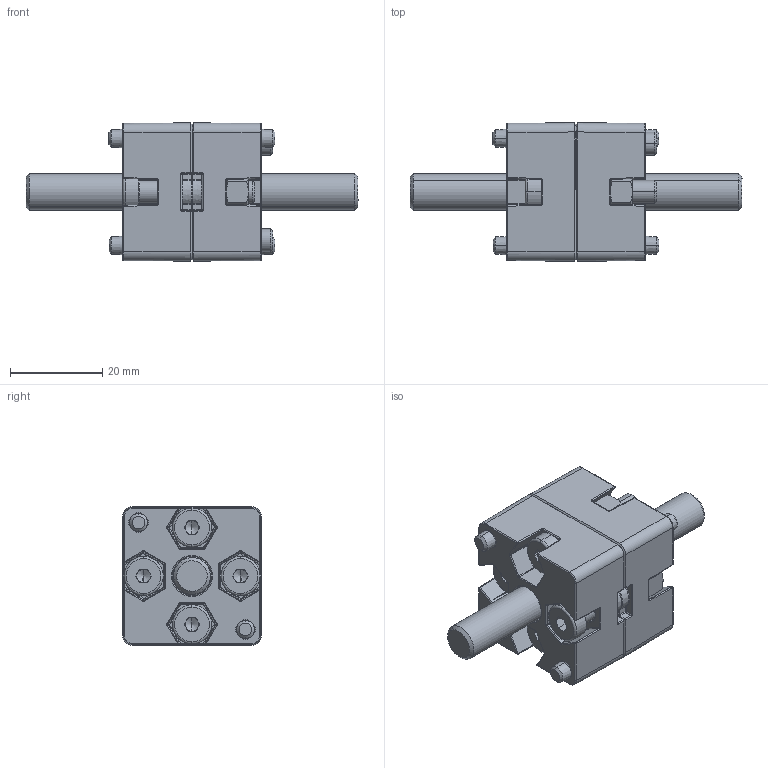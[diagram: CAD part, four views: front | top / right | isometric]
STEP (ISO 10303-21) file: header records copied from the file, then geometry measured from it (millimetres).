
FILE_DESCRIPTION (( 'STEP AP214' ), '1' );
FILE_NAME ('099EA30300808RS02.STEP', '2016-02-10T14:14:09', ( '' ), ( '' ), 'SwSTEP 2.0', 'SolidWorks 2016', '' );
FILE_SCHEMA (( 'AUTOMOTIVE_DESIGN' ));
Length unit declared in the file: millimetre
Products named in the file (5): Hexagon nut ISO 4032 M5_Nut ISO 4032; Cap screw DIN 7984 - M5x25_DIN 7984 - M5; Cap screw DIN 7984 - M8x30_DIN 7984 - M8 ; 099EA30300808R_099EA30300808R; 099EA30300808RS02
Assembly tree (12 placements, depth 2):
  099EA30300808RS02
    099EA30300808R_099EA30300808R  x2
    Cap screw DIN 7984 - M8x30_DIN 7984 - M8   x2
    Cap screw DIN 7984 - M5x25_DIN 7984 - M5  x4
    Hexagon nut ISO 4032 M5_Nut ISO 4032  x4
Bounding box: 72 x 29.99 x 29.99 mm (x, y, z)
Volume: 22702.3 mm3; surface area: 17875.9 mm2
Topology: 12 solids, 12 shells, 2068 faces, 4880 edges, 2590 vertices
Faces by surface type: cylinder 696, bspline 428, plane 412, sphere 216, torus 160, cone 156
Entity records: 30632 total; most frequent: CARTESIAN_POINT 10385, ORIENTED_EDGE 4380, DIRECTION 4064, EDGE_CURVE 2190, AXIS2_PLACEMENT_3D 1633, VERTEX_POINT 1228, EDGE_LOOP 1000, ADVANCED_FACE 979
